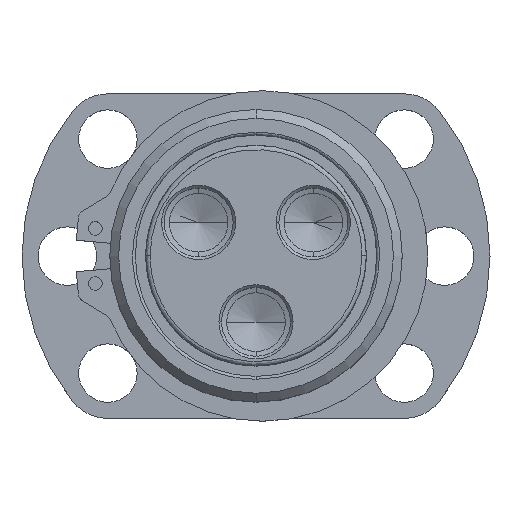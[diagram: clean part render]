
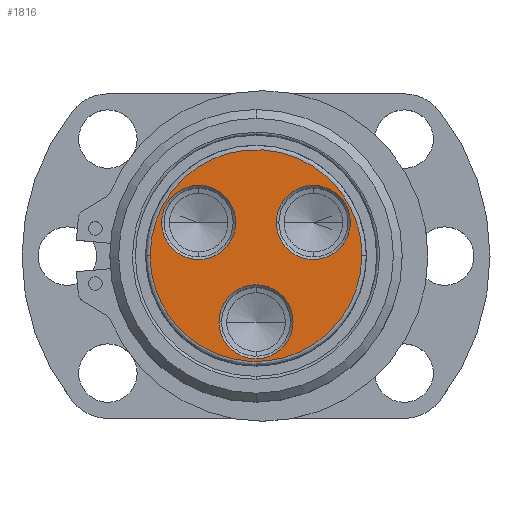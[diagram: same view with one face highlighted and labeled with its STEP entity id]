
A CAD part, top view. The second image highlights one B-rep face of the part: STEP entity #1816.
In plain terms, the highlighted planar face has unit normal (0, 0, 1).
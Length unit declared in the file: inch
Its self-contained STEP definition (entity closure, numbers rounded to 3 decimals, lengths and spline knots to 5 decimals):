
#54 = VERTEX_POINT ( 'NONE', #3290 ) ;
#67 = EDGE_CURVE ( 'NONE', #3851, #1481, #2189, .T. ) ;
#76 = FACE_OUTER_BOUND ( 'NONE', #3768, .T. ) ;
#102 = ORIENTED_EDGE ( 'NONE', *, *, #1678, .T. ) ;
#175 = CARTESIAN_POINT ( 'NONE',  ( -0.51962, 0.3, 0. ) ) ;
#348 = ORIENTED_EDGE ( 'NONE', *, *, #3935, .F. ) ;
#389 = PLANE ( 'NONE',  #1807 ) ;
#396 = CARTESIAN_POINT ( 'NONE',  ( -0.959, 0., 0. ) ) ;
#403 = ORIENTED_EDGE ( 'NONE', *, *, #4507, .T. ) ;
#412 = CARTESIAN_POINT ( 'NONE',  ( -0.959, -1.918, 0. ) ) ;
#449 = ORIENTED_EDGE ( 'NONE', *, *, #5059, .T. ) ;
#483 = DIRECTION ( 'NONE',  ( 0., 0., -1. ) ) ;
#507 = CARTESIAN_POINT ( 'NONE',  ( -0.85522, 0.3, 0. ) ) ;
#743 = ORIENTED_EDGE ( 'NONE', *, *, #2360, .T. ) ;
#787 =( BOUNDED_CURVE ( )  B_SPLINE_CURVE ( 3, ( #1495, #4196, #2198, #1037 ),
 .UNSPECIFIED., .F., .F. ) 
 B_SPLINE_CURVE_WITH_KNOTS ( ( 4, 4 ),
 ( 0., 1. ),
 .UNSPECIFIED. ) 
 CURVE ( )  GEOMETRIC_REPRESENTATION_ITEM ( )  RATIONAL_B_SPLINE_CURVE ( ( 1., 0.333, 0.333, 1. ) ) 
 REPRESENTATION_ITEM ( '' )  );
#853 = VERTEX_POINT ( 'NONE', #1082 ) ;
#988 = CIRCLE ( 'NONE', #3776, 0.3356 ) ;
#1037 = CARTESIAN_POINT ( 'NONE',  ( 0.959, 0., 0. ) ) ;
#1082 = CARTESIAN_POINT ( 'NONE',  ( 0.18402, 0.3, 0. ) ) ;
#1155 = ORIENTED_EDGE ( 'NONE', *, *, #67, .T. ) ;
#1157 = DIRECTION ( 'NONE',  ( 1., 0., 0. ) ) ;
#1173 = CARTESIAN_POINT ( 'NONE',  ( 0.959, -1.918, 0. ) ) ;
#1191 = CARTESIAN_POINT ( 'NONE',  ( 0.959, 0., 0. ) ) ;
#1264 = CARTESIAN_POINT ( 'NONE',  ( 0.959, 0., 0. ) ) ;
#1267 =( BOUNDED_CURVE ( )  B_SPLINE_CURVE ( 3, ( #1191, #1173, #412, #396 ),
 .UNSPECIFIED., .F., .F. ) 
 B_SPLINE_CURVE_WITH_KNOTS ( ( 4, 4 ),
 ( 0., 1. ),
 .UNSPECIFIED. ) 
 CURVE ( )  GEOMETRIC_REPRESENTATION_ITEM ( )  RATIONAL_B_SPLINE_CURVE ( ( 1., 0.333, 0.333, 1. ) ) 
 REPRESENTATION_ITEM ( '' )  );
#1387 = DIRECTION ( 'NONE',  ( 0., 0., -1. ) ) ;
#1424 = EDGE_LOOP ( 'NONE', ( #102, #3563 ) ) ;
#1441 = FACE_BOUND ( 'NONE', #1424, .T. ) ;
#1481 = VERTEX_POINT ( 'NONE', #3500 ) ;
#1495 = CARTESIAN_POINT ( 'NONE',  ( -0.959, 0., 0. ) ) ;
#1678 = EDGE_CURVE ( 'NONE', #5018, #4903, #4114, .T. ) ;
#1807 = AXIS2_PLACEMENT_3D ( 'NONE', #3134, #3166, #1157 ) ;
#1809 = DIRECTION ( 'NONE',  ( 0., 0., -1. ) ) ;
#1816 = ADVANCED_FACE ( 'NONE', ( #76, #1817, #2453, #1441 ), #389, .T. ) ;
#1817 = FACE_BOUND ( 'NONE', #4524, .T. ) ;
#2060 = DIRECTION ( 'NONE',  ( 1., 0., 0. ) ) ;
#2189 = CIRCLE ( 'NONE', #4612, 0.3356 ) ;
#2191 = VERTEX_POINT ( 'NONE', #3684 ) ;
#2198 = CARTESIAN_POINT ( 'NONE',  ( 0.959, 1.918, 0. ) ) ;
#2323 = EDGE_CURVE ( 'NONE', #4903, #5018, #3502, .T. ) ;
#2360 = EDGE_CURVE ( 'NONE', #1481, #3851, #4556, .T. ) ;
#2453 = FACE_BOUND ( 'NONE', #4270, .T. ) ;
#2507 = CIRCLE ( 'NONE', #4581, 0.3356 ) ;
#2569 = CARTESIAN_POINT ( 'NONE',  ( -0.3356, -0.6, 0. ) ) ;
#2774 = AXIS2_PLACEMENT_3D ( 'NONE', #175, #4129, #3334 ) ;
#2784 = CARTESIAN_POINT ( 'NONE',  ( -0.18402, 0.3, 0. ) ) ;
#2863 = CARTESIAN_POINT ( 'NONE',  ( 0., -0.6, 0. ) ) ;
#2946 = CARTESIAN_POINT ( 'NONE',  ( 0., -0.6, 0. ) ) ;
#2994 = AXIS2_PLACEMENT_3D ( 'NONE', #4392, #3593, #3954 ) ;
#3062 = AXIS2_PLACEMENT_3D ( 'NONE', #2863, #483, #2060 ) ;
#3118 = VERTEX_POINT ( 'NONE', #1264 ) ;
#3130 = ORIENTED_EDGE ( 'NONE', *, *, #3676, .F. ) ;
#3134 = CARTESIAN_POINT ( 'NONE',  ( 0., 0., 0. ) ) ;
#3166 = DIRECTION ( 'NONE',  ( 0., 0., 1. ) ) ;
#3196 = CARTESIAN_POINT ( 'NONE',  ( 0.51962, 0.3, 0. ) ) ;
#3290 = CARTESIAN_POINT ( 'NONE',  ( -0.959, 0., 0. ) ) ;
#3334 = DIRECTION ( 'NONE',  ( 1., 0., 0. ) ) ;
#3346 = CARTESIAN_POINT ( 'NONE',  ( 0.51962, 0.3, 0. ) ) ;
#3500 = CARTESIAN_POINT ( 'NONE',  ( 0.3356, -0.6, 0. ) ) ;
#3502 = CIRCLE ( 'NONE', #2994, 0.3356 ) ;
#3563 = ORIENTED_EDGE ( 'NONE', *, *, #2323, .T. ) ;
#3584 = DIRECTION ( 'NONE',  ( 0., 0., -1. ) ) ;
#3593 = DIRECTION ( 'NONE',  ( 0., 0., -1. ) ) ;
#3676 = EDGE_CURVE ( 'NONE', #3118, #54, #1267, .T. ) ;
#3684 = CARTESIAN_POINT ( 'NONE',  ( 0.85522, 0.3, 0. ) ) ;
#3768 = EDGE_LOOP ( 'NONE', ( #348, #3130 ) ) ;
#3776 = AXIS2_PLACEMENT_3D ( 'NONE', #3346, #1809, #4890 ) ;
#3851 = VERTEX_POINT ( 'NONE', #2569 ) ;
#3935 = EDGE_CURVE ( 'NONE', #54, #3118, #787, .T. ) ;
#3954 = DIRECTION ( 'NONE',  ( 1., 0., 0. ) ) ;
#3978 = DIRECTION ( 'NONE',  ( 1., 0., 0. ) ) ;
#4114 = CIRCLE ( 'NONE', #2774, 0.3356 ) ;
#4129 = DIRECTION ( 'NONE',  ( 0., 0., -1. ) ) ;
#4196 = CARTESIAN_POINT ( 'NONE',  ( -0.959, 1.918, 0. ) ) ;
#4270 = EDGE_LOOP ( 'NONE', ( #403, #449 ) ) ;
#4392 = CARTESIAN_POINT ( 'NONE',  ( -0.51962, 0.3, 0. ) ) ;
#4507 = EDGE_CURVE ( 'NONE', #2191, #853, #2507, .T. ) ;
#4524 = EDGE_LOOP ( 'NONE', ( #743, #1155 ) ) ;
#4556 = CIRCLE ( 'NONE', #3062, 0.3356 ) ;
#4581 = AXIS2_PLACEMENT_3D ( 'NONE', #3196, #3584, #3978 ) ;
#4612 = AXIS2_PLACEMENT_3D ( 'NONE', #2946, #1387, #4855 ) ;
#4855 = DIRECTION ( 'NONE',  ( 1., 0., 0. ) ) ;
#4890 = DIRECTION ( 'NONE',  ( 1., 0., 0. ) ) ;
#4903 = VERTEX_POINT ( 'NONE', #507 ) ;
#5018 = VERTEX_POINT ( 'NONE', #2784 ) ;
#5059 = EDGE_CURVE ( 'NONE', #853, #2191, #988, .T. ) ;
